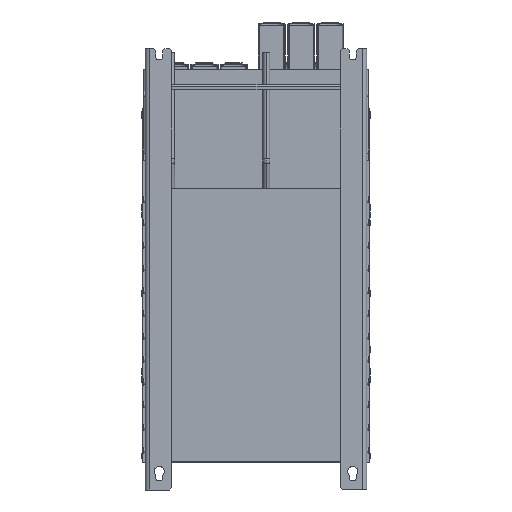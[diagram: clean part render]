
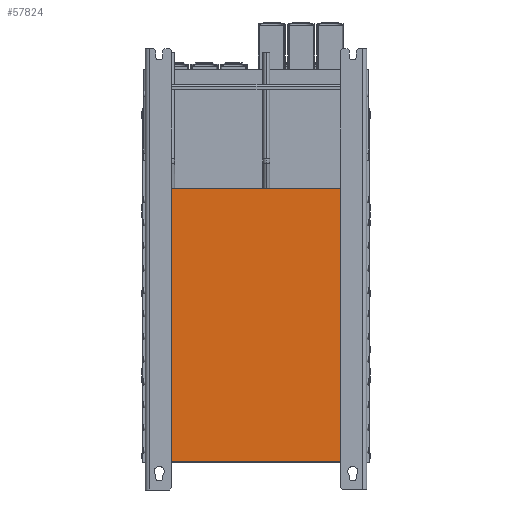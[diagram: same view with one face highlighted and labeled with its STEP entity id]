
A CAD part, front view. The second image highlights one B-rep face of the part: STEP entity #57824.
In plain terms, the highlighted planar face has unit normal (0, -1, 0).
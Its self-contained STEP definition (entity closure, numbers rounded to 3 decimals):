
#1559 = CARTESIAN_POINT ( 'NONE',  ( 239., -28., 0. ) ) ;
#6526 = EDGE_CURVE ( 'NONE', #37469, #12010, #28492, .T. ) ;
#6700 = EDGE_CURVE ( 'NONE', #12010, #29736, #29040, .T. ) ;
#8528 = EDGE_CURVE ( 'NONE', #37469, #8768, #47639, .T. ) ;
#8768 = VERTEX_POINT ( 'NONE', #30202 ) ;
#11728 = VECTOR ( 'NONE', #87544, 1000. ) ;
#12010 = VERTEX_POINT ( 'NONE', #34791 ) ;
#21804 = PLANE ( 'NONE',  #74808 ) ;
#23751 = CARTESIAN_POINT ( 'NONE',  ( -239., -28., 0. ) ) ;
#28492 = LINE ( 'NONE', #56414, #34450 ) ;
#29040 = LINE ( 'NONE', #1559, #71129 ) ;
#29736 = VERTEX_POINT ( 'NONE', #23751 ) ;
#30202 = CARTESIAN_POINT ( 'NONE',  ( -239., -28., -598. ) ) ;
#34450 = VECTOR ( 'NONE', #84889, 1000. ) ;
#34791 = CARTESIAN_POINT ( 'NONE',  ( 239., -28., 0. ) ) ;
#36799 = DIRECTION ( 'NONE',  ( -1., 0., 0. ) ) ;
#37455 = VECTOR ( 'NONE', #40734, 1000. ) ;
#37469 = VERTEX_POINT ( 'NONE', #68033 ) ;
#40172 = ORIENTED_EDGE ( 'NONE', *, *, #54508, .F. ) ;
#40734 = DIRECTION ( 'NONE',  ( -1., 0., 0. ) ) ;
#42309 = ORIENTED_EDGE ( 'NONE', *, *, #8528, .F. ) ;
#42843 = DIRECTION ( 'NONE',  ( 1., 0., 0. ) ) ;
#47639 = LINE ( 'NONE', #67377, #37455 ) ;
#48809 = FACE_OUTER_BOUND ( 'NONE', #73003, .T. ) ;
#49736 = CARTESIAN_POINT ( 'NONE',  ( 239., -28., -598. ) ) ;
#50816 = ORIENTED_EDGE ( 'NONE', *, *, #6700, .T. ) ;
#54508 = EDGE_CURVE ( 'NONE', #8768, #29736, #86200, .T. ) ;
#56414 = CARTESIAN_POINT ( 'NONE',  ( 239., -28., -598. ) ) ;
#57824 = ADVANCED_FACE ( 'NONE', ( #48809 ), #21804, .F. ) ;
#59255 = ORIENTED_EDGE ( 'NONE', *, *, #6526, .T. ) ;
#67377 = CARTESIAN_POINT ( 'NONE',  ( 239., -28., -598. ) ) ;
#68033 = CARTESIAN_POINT ( 'NONE',  ( 239., -28., -598. ) ) ;
#71129 = VECTOR ( 'NONE', #36799, 1000. ) ;
#73003 = EDGE_LOOP ( 'NONE', ( #50816, #40172, #42309, #59255 ) ) ;
#74808 = AXIS2_PLACEMENT_3D ( 'NONE', #49736, #77728, #42843 ) ;
#77728 = DIRECTION ( 'NONE',  ( 0., 1., 0. ) ) ;
#84889 = DIRECTION ( 'NONE',  ( 0., 0., 1. ) ) ;
#86200 = LINE ( 'NONE', #86658, #11728 ) ;
#86658 = CARTESIAN_POINT ( 'NONE',  ( -239., -28., -598. ) ) ;
#87544 = DIRECTION ( 'NONE',  ( 0., 0., 1. ) ) ;
